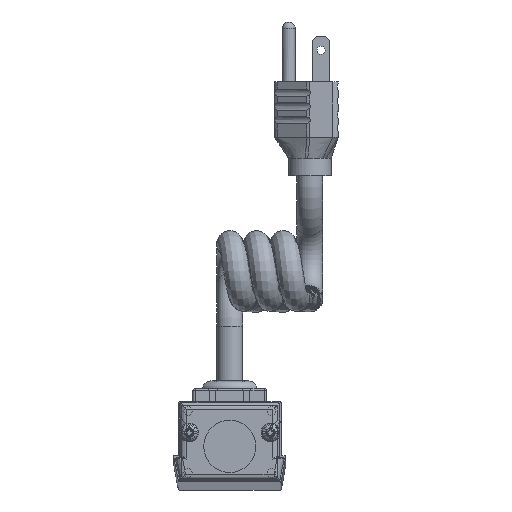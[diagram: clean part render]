
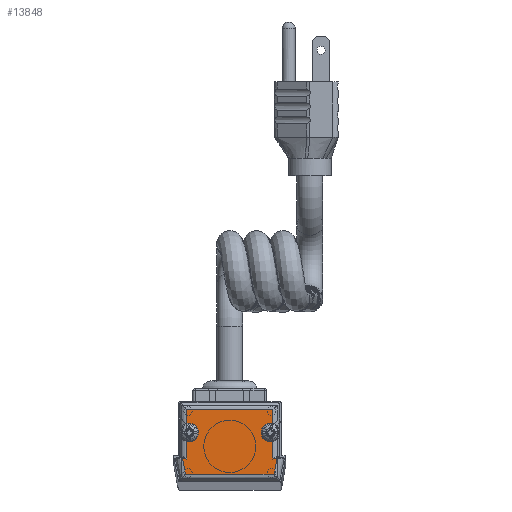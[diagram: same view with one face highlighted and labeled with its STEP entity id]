
A CAD part, top view. The second image highlights one B-rep face of the part: STEP entity #13848.
In plain terms, the highlighted planar face has unit normal (0, 0, 1).
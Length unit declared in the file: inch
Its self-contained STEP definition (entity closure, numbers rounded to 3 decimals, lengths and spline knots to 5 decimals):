
#1127=CIRCLE('',#14921,1.5875);
#1129=CIRCLE('',#14924,1.5875);
#1130=CIRCLE('',#14925,1.5875);
#1782=FACE_OUTER_BOUND('',#2580,.T.);
#2580=EDGE_LOOP('',(#10092,#10093,#10094,#10095,#10096,#10097,#10098,#10099,
#10100,#10101,#10102,#10103,#10104));
#3609=LINE('',#20223,#4882);
#3610=LINE('',#20225,#4883);
#3611=LINE('',#20227,#4884);
#3612=LINE('',#20229,#4885);
#3613=LINE('',#20231,#4886);
#3614=LINE('',#20233,#4887);
#3615=LINE('',#20234,#4888);
#3616=LINE('',#20236,#4889);
#3617=LINE('',#20238,#4890);
#3618=LINE('',#20239,#4891);
#4882=VECTOR('',#16651,10.);
#4883=VECTOR('',#16652,10.);
#4884=VECTOR('',#16653,10.);
#4885=VECTOR('',#16654,10.);
#4886=VECTOR('',#16655,10.);
#4887=VECTOR('',#16656,10.);
#4888=VECTOR('',#16657,10.);
#4889=VECTOR('',#16658,10.);
#4890=VECTOR('',#16659,10.);
#4891=VECTOR('',#16660,10.);
#6095=VERTEX_POINT('',#20179);
#6096=VERTEX_POINT('',#20188);
#6098=VERTEX_POINT('',#20201);
#6099=VERTEX_POINT('',#20203);
#6100=VERTEX_POINT('',#20205);
#6101=VERTEX_POINT('',#20222);
#6102=VERTEX_POINT('',#20224);
#6103=VERTEX_POINT('',#20226);
#6104=VERTEX_POINT('',#20228);
#6105=VERTEX_POINT('',#20230);
#6106=VERTEX_POINT('',#20232);
#6107=VERTEX_POINT('',#20235);
#6108=VERTEX_POINT('',#20237);
#7598=EDGE_CURVE('',#6096,#6095,#1127,.T.);
#7602=EDGE_CURVE('',#6099,#6098,#1129,.T.);
#7604=EDGE_CURVE('',#6098,#6100,#1130,.T.);
#7605=EDGE_CURVE('',#6101,#6095,#3609,.T.);
#7606=EDGE_CURVE('',#6102,#6101,#3610,.T.);
#7607=EDGE_CURVE('',#6103,#6102,#3611,.T.);
#7608=EDGE_CURVE('',#6104,#6103,#3612,.T.);
#7609=EDGE_CURVE('',#6105,#6104,#3613,.T.);
#7610=EDGE_CURVE('',#6106,#6105,#3614,.T.);
#7611=EDGE_CURVE('',#6099,#6106,#3615,.T.);
#7612=EDGE_CURVE('',#6107,#6100,#3616,.T.);
#7613=EDGE_CURVE('',#6108,#6107,#3617,.T.);
#7614=EDGE_CURVE('',#6096,#6108,#3618,.T.);
#10092=ORIENTED_EDGE('',*,*,#7598,.T.);
#10093=ORIENTED_EDGE('',*,*,#7605,.F.);
#10094=ORIENTED_EDGE('',*,*,#7606,.F.);
#10095=ORIENTED_EDGE('',*,*,#7607,.F.);
#10096=ORIENTED_EDGE('',*,*,#7608,.F.);
#10097=ORIENTED_EDGE('',*,*,#7609,.F.);
#10098=ORIENTED_EDGE('',*,*,#7610,.F.);
#10099=ORIENTED_EDGE('',*,*,#7611,.F.);
#10100=ORIENTED_EDGE('',*,*,#7602,.T.);
#10101=ORIENTED_EDGE('',*,*,#7604,.T.);
#10102=ORIENTED_EDGE('',*,*,#7612,.F.);
#10103=ORIENTED_EDGE('',*,*,#7613,.F.);
#10104=ORIENTED_EDGE('',*,*,#7614,.F.);
#13398=PLANE('',#14926);
#13848=ADVANCED_FACE('',(#1782),#13398,.T.);
#14921=AXIS2_PLACEMENT_3D('',#20189,#16638,#16639);
#14924=AXIS2_PLACEMENT_3D('',#20204,#16645,#16646);
#14925=AXIS2_PLACEMENT_3D('',#20220,#16647,#16648);
#14926=AXIS2_PLACEMENT_3D('',#20221,#16649,#16650);
#16638=DIRECTION('center_axis',(0.,0.,-1.));
#16639=DIRECTION('ref_axis',(1.,0.,0.));
#16645=DIRECTION('center_axis',(0.,0.,-1.));
#16646=DIRECTION('ref_axis',(1.,0.,0.));
#16647=DIRECTION('center_axis',(0.,0.,-1.));
#16648=DIRECTION('ref_axis',(1.,0.,0.));
#16649=DIRECTION('center_axis',(0.,0.,1.));
#16650=DIRECTION('ref_axis',(1.,0.,0.));
#16651=DIRECTION('',(0.,1.,0.));
#16652=DIRECTION('',(0.996,-0.087,0.));
#16653=DIRECTION('',(-0.191,0.982,0.));
#16654=DIRECTION('',(-1.,0.,0.));
#16655=DIRECTION('',(-0.191,-0.982,0.));
#16656=DIRECTION('',(0.996,0.087,0.));
#16657=DIRECTION('',(0.,-1.,0.));
#16658=DIRECTION('',(0.,-1.,0.));
#16659=DIRECTION('',(1.,0.,0.));
#16660=DIRECTION('',(0.,1.,0.));
#20179=CARTESIAN_POINT('',(-15.7226,16.40547,2.54));
#20188=CARTESIAN_POINT('',(-15.7226,19.05293,2.54));
#20189=CARTESIAN_POINT('Origin',(-14.8463,17.7292,2.54));
#20201=CARTESIAN_POINT('',(13.2588,17.7292,2.54));
#20203=CARTESIAN_POINT('',(15.7226,16.40547,2.54));
#20204=CARTESIAN_POINT('Origin',(14.8463,17.7292,2.54));
#20205=CARTESIAN_POINT('',(15.7226,19.05293,2.54));
#20220=CARTESIAN_POINT('Origin',(14.8463,17.7292,2.54));
#20221=CARTESIAN_POINT('Origin',(0.,14.10876,
2.54));
#20222=CARTESIAN_POINT('',(-15.7226,8.06566,2.54));
#20223=CARTESIAN_POINT('',(-15.7226,11.38955,2.54));
#20224=CARTESIAN_POINT('',(-17.26917,8.20097,2.54));
#20225=CARTESIAN_POINT('',(-10.32721,7.59363,2.54));
#20226=CARTESIAN_POINT('',(-16.16879,2.54,2.54));
#20227=CARTESIAN_POINT('',(-16.75812,5.57187,2.54));
#20228=CARTESIAN_POINT('',(16.16879,2.54,2.54));
#20229=CARTESIAN_POINT('',(9.1313,2.54,2.54));
#20230=CARTESIAN_POINT('',(17.26917,8.20097,2.54));
#20231=CARTESIAN_POINT('',(17.61537,9.98204,2.54));
#20232=CARTESIAN_POINT('',(15.7226,8.06566,2.54));
#20233=CARTESIAN_POINT('',(9.46996,7.51863,2.54));
#20234=CARTESIAN_POINT('',(15.7226,21.34188,2.54));
#20235=CARTESIAN_POINT('',(15.7226,26.035,2.54));
#20236=CARTESIAN_POINT('',(15.7226,21.34188,2.54));
#20237=CARTESIAN_POINT('',(-15.7226,26.035,2.54));
#20238=CARTESIAN_POINT('',(-9.1313,26.035,2.54));
#20239=CARTESIAN_POINT('',(-15.7226,11.38955,2.54));
